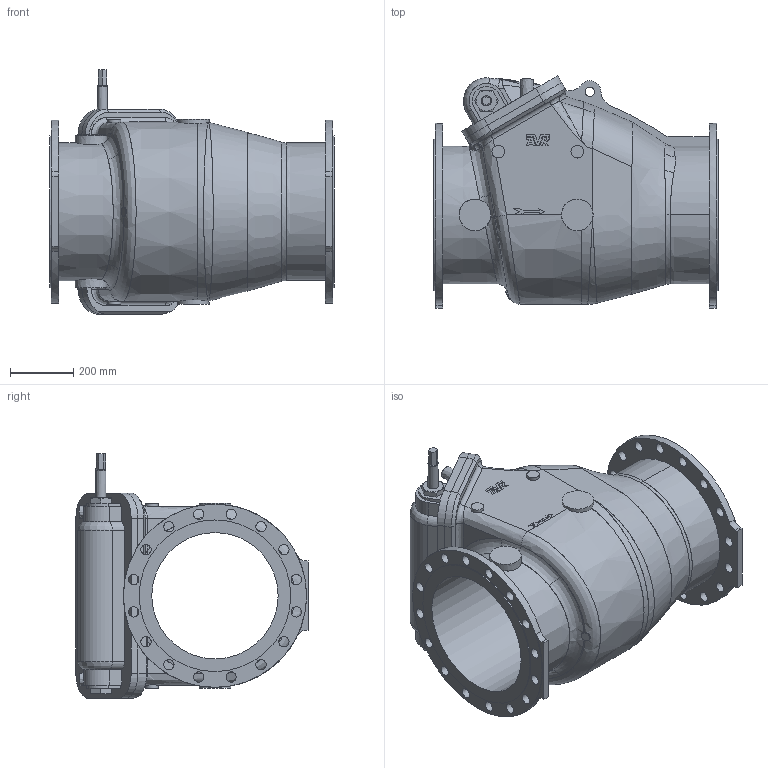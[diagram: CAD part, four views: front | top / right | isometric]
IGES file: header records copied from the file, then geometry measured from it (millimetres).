
Start section: SolidWorks IGES file using analytic representation for surfaces
Global section: file name: C:\Users\skch\Desktop\D3610-UK-OUTLINE\41-39\O_41_39_DN400_01\O_41_39_DN400_01.IGS; native system: SolidWorks 2012; preprocessor: SolidWorks 2012; author: skch; date: 150407.111712; units: millimetre
Bounding box: 900 x 735.45 x 775 mm (x, y, z)
Surface area: 3772663.9 mm2 (no closed solid volume)
Topology: 0 solids, 0 shells, 410 faces, 3233 edges, 4070 vertices
Faces by surface type: bspline 288, revolution 122
